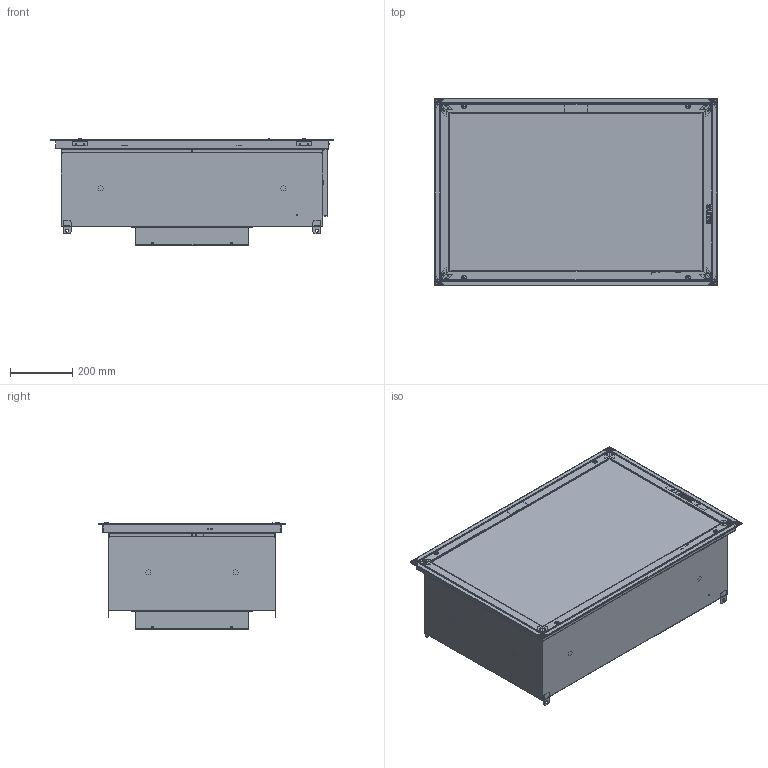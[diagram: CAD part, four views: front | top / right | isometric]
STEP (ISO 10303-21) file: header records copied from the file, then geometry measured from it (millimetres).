
FILE_DESCRIPTION (( 'STEP AP203' ), '1' );
FILE_NAME ('36 X 24_SSLFHFD-FFU_NO LED.STEP', '2025-09-05T14:46:17', ( '' ), ( '' ), 'SwSTEP 2.0', 'SolidWorks 2024', '' );
FILE_SCHEMA (( 'CONFIG_CONTROL_DESIGN' ));
Length unit declared in the file: inch
Products named in the file (43): 090425-FFUs4STEP_PLASTER-SUB_L04; 090425-FFUs4STEP_H1N2_L04; 090425-FFUs4STEP_R2C1-SUB_L04; 090425-FFUs4STEP_FP1B20-A1_L04; 090425-FFUs4STEP_FACE Display-SUB_L04; 090425-FFUs4STEP_H1Z24_L04; 090425-FFUs4STEP_P1B1B-SUB_L04; 090425-FFUs4STEP_FACE-SUB_L04; 090425-FFUs4STEP_FP1B20-A4_L04; 090425-FFUs4STEP_R2C1_L04; 090425-FFUs4STEP_X6BE_L04; 090425-FFUs4STEP_H1B8_L04_NUTSERT, 1_4-20 X .58 SS; HEX BODY; 090425-FFUs4STEP_PLENUM-SUB_L04; 090425-FFUs4STEP_Inlet Ring-SUB_L04; 090425-FFUs4STEP_FC3E-A_L04; 36 X 24_SSLFHFD-FFU_NO LED; 090425-FFUs4STEP_H1V31_L04_WASHER, TEFLON: 0.50"OD x 0.25"ID x 0.025"th; 090425-FFUs4STEP_FC3E-A4_L04; 090425-FFUs4STEP_FC3E-A1_L04; 090425-FFUs4STEP_FP1B20-A3_L04; 090425-FFUs4STEP_X4CM_L04; 090425-FFUs4STEP_H2G12_L04; 090425-FFUs4STEP_PERF-SUB_L04; 090425-FFUs4STEP_FC3E-A2_L04; 090425-FFUs4STEP_H2E12_L04_CLIP, HEPA FILTER, SWING ARM; 090425-FFUs4STEP_H1E1_L04; 090425-FFUs4STEP_FC3E-A3_L04; 090425-FFUs4STEP_H1E2_L04; 090425-FFUs4STEP_H1V18_L04; 090425-FFUs4STEP_H1C28_L04; 090425-FFUs4STEP_H1D11_L04_91020A530; 090425-FFUs4STEP_FP1B20_L04; 090425-FFUs4STEP_H1E3_L04; 090425-FFUs4STEP_FP1B20-A2_L04; 090425-FFUs4STEP_H1W37_L04; 090425-FFUs4STEP_H2E5_L04; 090425-FFUs4STEP_X4CP_L04; 090425-FFUs4STEP_H1F1_L04_1_4 TURN SPRING; 090425-FFUs4STEP_H2E11_L04_GUIDE, HEPA FILTER, SWING ARM; 090425-FFUs4STEP_H2E1_L04_WELD CLIP; 40º BEVEL FRAME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
Assembly tree (88 placements, depth 5):
  36 X 24_SSLFHFD-FFU_NO LED
    090425-FFUs4STEP_PLASTER-SUB_L04
      090425-FFUs4STEP_FC3E-A_L04
        090425-FFUs4STEP_FC3E-A1_L04
        090425-FFUs4STEP_FC3E-A2_L04
        090425-FFUs4STEP_FC3E-A3_L04
        090425-FFUs4STEP_FC3E-A4_L04
        090425-FFUs4STEP_H2E2_L04_WELD CLIP, BOB FRAME  x4
        090425-FFUs4STEP_H2G12_L04  x4
        090425-FFUs4STEP_H1F1_L04_1_4 TURN SPRING  x4
        090425-FFUs4STEP_H2E11_L04_GUIDE, HEPA FILTER, SWING ARM  x6
        090425-FFUs4STEP_H2E12_L04_CLIP, HEPA FILTER, SWING ARM  x6
        090425-FFUs4STEP_H1V31_L04_WASHER, TEFLON: 0.50"OD x 0.25"ID x 0.025"th  x6
        090425-FFUs4STEP_FACE Display-SUB_L04
          090425-FFUs4STEP_X4CM_L04
          090425-FFUs4STEP_H1W37_L04
          090425-FFUs4STEP_H1D11_L04_91020A530  x2
        090425-FFUs4STEP_H1V18_L04
    090425-FFUs4STEP_FACE-SUB_L04
      090425-FFUs4STEP_FP1B20_L04
        090425-FFUs4STEP_FP1B20-A1_L04
        090425-FFUs4STEP_FP1B20-A2_L04
        090425-FFUs4STEP_FP1B20-A3_L04
        090425-FFUs4STEP_FP1B20-A4_L04
        090425-FFUs4STEP_H2E1_L04_WELD CLIP; 40º BEVEL FRAME  x4
        090425-FFUs4STEP_H1E1_L04  x4
        090425-FFUs4STEP_H1E2_L04  x4
        090425-FFUs4STEP_SAFETYCABLEASSEMBLY_L04  x2
          090425-FFUs4STEP_H1N2_L04
          090425-FFUs4STEP_H1E3_L04
        090425-FFUs4STEP_H1Z24_L04
    090425-FFUs4STEP_PERF-SUB_L04
      090425-FFUs4STEP_R2C1-SUB_L04
        090425-FFUs4STEP_R2C1_L04
    090425-FFUs4STEP_PLENUM-SUB_L04
      090425-FFUs4STEP_P1B1B-SUB_L04
        090425-FFUs4STEP_P1B1B_L04
        090425-FFUs4STEP_H2E5_L04  x4
        090425-FFUs4STEP_X6BE_L04
        090425-FFUs4STEP_H1B8_L04_NUTSERT, 1_4-20 X .58 SS; HEX BODY  x8
        090425-FFUs4STEP_Inlet Ring-SUB_L04
          090425-FFUs4STEP_X4CP_L04
          090425-FFUs4STEP_H1C28_L04
        090425-FFUs4STEP_H1V18_L04
Bounding box: 908.05 x 603.25 x 344.25 mm (x, y, z)
Volume: 1939164.6 mm3; surface area: 4612207.9 mm2
Topology: 85 solids, 149 shells, 4515 faces, 12792 edges, 8594 vertices
Faces by surface type: plane 2424, cylinder 1577, bspline 244, torus 224, sphere 32, cone 14
Entity records: 122795 total; most frequent: CARTESIAN_POINT 31523, DIRECTION 17257, ORIENTED_EDGE 16994, EDGE_CURVE 9474, VERTEX_POINT 6503, LINE 6083, VECTOR 6083, AXIS2_PLACEMENT_3D 5587
